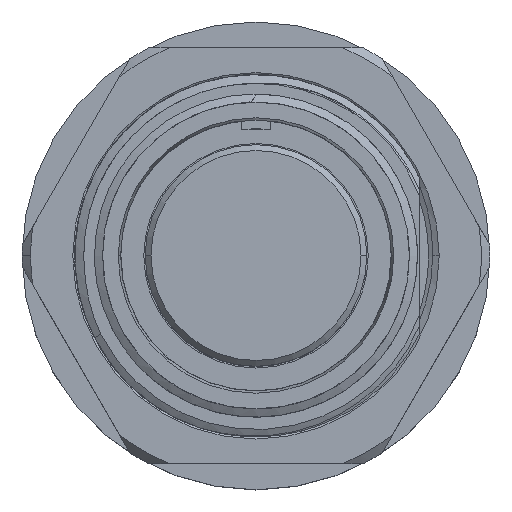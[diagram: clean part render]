
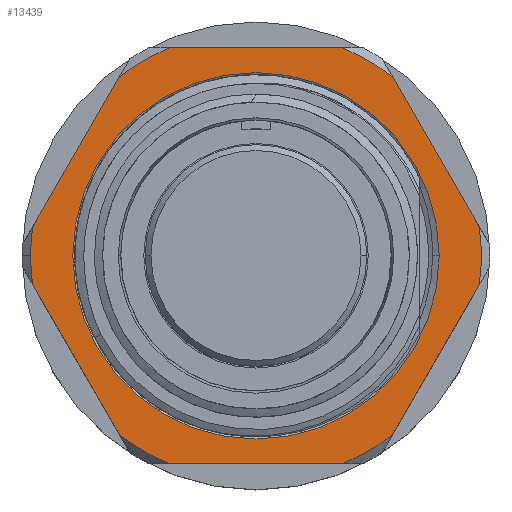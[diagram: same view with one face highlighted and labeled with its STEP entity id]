
A CAD part, top view. The second image highlights one B-rep face of the part: STEP entity #13439.
In plain terms, the highlighted planar face has unit normal (0, 0, 1).
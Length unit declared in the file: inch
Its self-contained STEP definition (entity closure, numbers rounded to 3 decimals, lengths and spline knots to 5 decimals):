
#28 = CIRCLE ( 'NONE', #8294, 0.6325 ) ;
#33 = CARTESIAN_POINT ( 'NONE',  ( 0., 0., -0.59 ) ) ;
#38 = DIRECTION ( 'NONE',  ( 0., 0., 1. ) ) ;
#77 = EDGE_CURVE ( 'NONE', #11012, #11980, #9096, .T. ) ;
#154 = DIRECTION ( 'NONE',  ( 1., 0., 0. ) ) ;
#192 = DIRECTION ( 'NONE',  ( 1., 0., 0. ) ) ;
#251 = CIRCLE ( 'NONE', #6448, 0.7775 ) ;
#433 = EDGE_CURVE ( 'NONE', #2162, #5060, #11085, .T. ) ;
#572 = AXIS2_PLACEMENT_3D ( 'NONE', #33, #11218, #10032 ) ;
#1038 = AXIS2_PLACEMENT_3D ( 'NONE', #14321, #4592, #9145 ) ;
#1225 = CIRCLE ( 'NONE', #9474, 0.7775 ) ;
#1275 = ORIENTED_EDGE ( 'NONE', *, *, #8501, .F. ) ;
#1279 = DIRECTION ( 'NONE',  ( 0., 0., 1. ) ) ;
#1306 = CARTESIAN_POINT ( 'NONE',  ( 0.34749, 0.83313, -0.59 ) ) ;
#1314 = AXIS2_PLACEMENT_3D ( 'NONE', #9435, #6142, #10623 ) ;
#1321 = FACE_OUTER_BOUND ( 'NONE', #11796, .T. ) ;
#1431 = VERTEX_POINT ( 'NONE', #12770 ) ;
#1563 = DIRECTION ( 'NONE',  ( 1., 0., 0. ) ) ;
#1741 = VERTEX_POINT ( 'NONE', #5183 ) ;
#1977 = CARTESIAN_POINT ( 'NONE',  ( 0.6325, 0., -0.59 ) ) ;
#2126 = VERTEX_POINT ( 'NONE', #11651 ) ;
#2162 = VERTEX_POINT ( 'NONE', #12898 ) ;
#2237 = ORIENTED_EDGE ( 'NONE', *, *, #6822, .F. ) ;
#2301 = DIRECTION ( 'NONE',  ( -0.5, 0.866, 0. ) ) ;
#2486 = VECTOR ( 'NONE', #11444, 39.37008 ) ;
#2492 = CARTESIAN_POINT ( 'NONE',  ( 0.47162, -0.61812, -0.59 ) ) ;
#2680 = DIRECTION ( 'NONE',  ( 0., 0., 1. ) ) ;
#2807 = VERTEX_POINT ( 'NONE', #1977 ) ;
#3021 = CARTESIAN_POINT ( 'NONE',  ( 0., 0.7175, -0.59 ) ) ;
#3047 = EDGE_LOOP ( 'NONE', ( #10582, #6995 ) ) ;
#3162 = CARTESIAN_POINT ( 'NONE',  ( 0., 0., -0.59 ) ) ;
#3172 = VECTOR ( 'NONE', #13213, 39.37008 ) ;
#3323 = CARTESIAN_POINT ( 'NONE',  ( -0.34749, 0.83313, -0.59 ) ) ;
#3366 = VERTEX_POINT ( 'NONE', #4807 ) ;
#3498 = CARTESIAN_POINT ( 'NONE',  ( -0.89525, 0.11562, -0.59 ) ) ;
#3609 = VERTEX_POINT ( 'NONE', #7632 ) ;
#3633 = CARTESIAN_POINT ( 'NONE',  ( 0.77112, -0.09938, -0.59 ) ) ;
#3838 = FACE_BOUND ( 'NONE', #3047, .T. ) ;
#4170 = CIRCLE ( 'NONE', #12883, 0.6325 ) ;
#4351 = ORIENTED_EDGE ( 'NONE', *, *, #77, .F. ) ;
#4592 = DIRECTION ( 'NONE',  ( 0., 0., 1. ) ) ;
#4727 = VERTEX_POINT ( 'NONE', #8474 ) ;
#4741 = AXIS2_PLACEMENT_3D ( 'NONE', #6740, #38, #7030 ) ;
#4781 = DIRECTION ( 'NONE',  ( 1., 0., 0. ) ) ;
#4786 = CIRCLE ( 'NONE', #9010, 0.7775 ) ;
#4807 = CARTESIAN_POINT ( 'NONE',  ( -0.2995, 0.7175, -0.59 ) ) ;
#4854 = DIRECTION ( 'NONE',  ( 1., 0., 0. ) ) ;
#4958 = PLANE ( 'NONE',  #1314 ) ;
#5025 = CIRCLE ( 'NONE', #5966, 0.7775 ) ;
#5060 = VERTEX_POINT ( 'NONE', #2492 ) ;
#5122 = ORIENTED_EDGE ( 'NONE', *, *, #5738, .T. ) ;
#5183 = CARTESIAN_POINT ( 'NONE',  ( -0.47162, 0.61812, -0.59 ) ) ;
#5335 = CIRCLE ( 'NONE', #1038, 0.7775 ) ;
#5341 = LINE ( 'NONE', #8782, #13316 ) ;
#5529 = CARTESIAN_POINT ( 'NONE',  ( 0.89525, 0.11562, -0.59 ) ) ;
#5736 = EDGE_CURVE ( 'NONE', #11154, #11980, #4786, .T. ) ;
#5738 = EDGE_CURVE ( 'NONE', #11485, #7323, #1225, .T. ) ;
#5920 = EDGE_CURVE ( 'NONE', #2126, #10541, #5025, .T. ) ;
#5966 = AXIS2_PLACEMENT_3D ( 'NONE', #14622, #14551, #192 ) ;
#6142 = DIRECTION ( 'NONE',  ( 0., 0., -1. ) ) ;
#6417 = ORIENTED_EDGE ( 'NONE', *, *, #5736, .T. ) ;
#6442 = LINE ( 'NONE', #3021, #10664 ) ;
#6444 = CARTESIAN_POINT ( 'NONE',  ( -0.77112, -0.09938, -0.59 ) ) ;
#6448 = AXIS2_PLACEMENT_3D ( 'NONE', #9399, #2680, #4854 ) ;
#6520 = EDGE_CURVE ( 'NONE', #11485, #5060, #12457, .T. ) ;
#6633 = EDGE_CURVE ( 'NONE', #3366, #1741, #251, .T. ) ;
#6638 = DIRECTION ( 'NONE',  ( -0.5, -0.866, 0. ) ) ;
#6695 = EDGE_CURVE ( 'NONE', #2807, #4727, #28, .T. ) ;
#6740 = CARTESIAN_POINT ( 'NONE',  ( 0., 0., -0.59 ) ) ;
#6819 = LINE ( 'NONE', #3323, #3172 ) ;
#6822 = EDGE_CURVE ( 'NONE', #3366, #10541, #6442, .T. ) ;
#6868 = VECTOR ( 'NONE', #2301, 39.37008 ) ;
#6995 = ORIENTED_EDGE ( 'NONE', *, *, #14084, .F. ) ;
#7030 = DIRECTION ( 'NONE',  ( 1., 0., 0. ) ) ;
#7323 = VERTEX_POINT ( 'NONE', #11725 ) ;
#7462 = DIRECTION ( 'NONE',  ( 1., 0., 0. ) ) ;
#7532 = DIRECTION ( 'NONE',  ( 1., 0., 0. ) ) ;
#7632 = CARTESIAN_POINT ( 'NONE',  ( -0.77112, 0.09938, -0.59 ) ) ;
#7868 = ORIENTED_EDGE ( 'NONE', *, *, #9701, .T. ) ;
#8221 = CARTESIAN_POINT ( 'NONE',  ( 0., 0., -0.59 ) ) ;
#8294 = AXIS2_PLACEMENT_3D ( 'NONE', #8221, #11632, #1563 ) ;
#8474 = CARTESIAN_POINT ( 'NONE',  ( -0.6325, 0., -0.59 ) ) ;
#8501 = EDGE_CURVE ( 'NONE', #3609, #1741, #6819, .T. ) ;
#8782 = CARTESIAN_POINT ( 'NONE',  ( 0., -0.7175, -0.59 ) ) ;
#8857 = ORIENTED_EDGE ( 'NONE', *, *, #12281, .T. ) ;
#9010 = AXIS2_PLACEMENT_3D ( 'NONE', #11268, #11418, #4781 ) ;
#9096 = LINE ( 'NONE', #3498, #6868 ) ;
#9145 = DIRECTION ( 'NONE',  ( 1., 0., 0. ) ) ;
#9399 = CARTESIAN_POINT ( 'NONE',  ( 0., 0., -0.59 ) ) ;
#9435 = CARTESIAN_POINT ( 'NONE',  ( 0., 0.6325, -0.59 ) ) ;
#9474 = AXIS2_PLACEMENT_3D ( 'NONE', #3162, #1279, #154 ) ;
#9568 = EDGE_CURVE ( 'NONE', #2162, #1431, #5341, .T. ) ;
#9666 = DIRECTION ( 'NONE',  ( -1., 0., 0. ) ) ;
#9701 = EDGE_CURVE ( 'NONE', #11012, #1431, #5335, .T. ) ;
#9716 = VECTOR ( 'NONE', #6638, 39.37008 ) ;
#9891 = DIRECTION ( 'NONE',  ( 0., 0., 1. ) ) ;
#10032 = DIRECTION ( 'NONE',  ( 1., 0., 0. ) ) ;
#10541 = VERTEX_POINT ( 'NONE', #12227 ) ;
#10561 = ORIENTED_EDGE ( 'NONE', *, *, #6633, .T. ) ;
#10582 = ORIENTED_EDGE ( 'NONE', *, *, #6695, .F. ) ;
#10623 = DIRECTION ( 'NONE',  ( -1., 0., 0. ) ) ;
#10664 = VECTOR ( 'NONE', #7532, 39.37008 ) ;
#10780 = CARTESIAN_POINT ( 'NONE',  ( 0., 0., -0.59 ) ) ;
#10885 = ORIENTED_EDGE ( 'NONE', *, *, #433, .T. ) ;
#11012 = VERTEX_POINT ( 'NONE', #11028 ) ;
#11028 = CARTESIAN_POINT ( 'NONE',  ( -0.47162, -0.61812, -0.59 ) ) ;
#11061 = CARTESIAN_POINT ( 'NONE',  ( -0.7775, 0., -0.59 ) ) ;
#11085 = CIRCLE ( 'NONE', #4741, 0.7775 ) ;
#11154 = VERTEX_POINT ( 'NONE', #11061 ) ;
#11186 = ORIENTED_EDGE ( 'NONE', *, *, #9568, .F. ) ;
#11218 = DIRECTION ( 'NONE',  ( 0., 0., 1. ) ) ;
#11268 = CARTESIAN_POINT ( 'NONE',  ( 0., 0., -0.59 ) ) ;
#11324 = ORIENTED_EDGE ( 'NONE', *, *, #5920, .T. ) ;
#11411 = ORIENTED_EDGE ( 'NONE', *, *, #6520, .F. ) ;
#11418 = DIRECTION ( 'NONE',  ( 0., 0., 1. ) ) ;
#11444 = DIRECTION ( 'NONE',  ( 0.5, -0.866, 0. ) ) ;
#11467 = CIRCLE ( 'NONE', #572, 0.7775 ) ;
#11485 = VERTEX_POINT ( 'NONE', #3633 ) ;
#11632 = DIRECTION ( 'NONE',  ( 0., 0., 1. ) ) ;
#11651 = CARTESIAN_POINT ( 'NONE',  ( 0.47162, 0.61812, -0.59 ) ) ;
#11725 = CARTESIAN_POINT ( 'NONE',  ( 0.77112, 0.09938, -0.59 ) ) ;
#11796 = EDGE_LOOP ( 'NONE', ( #11411, #5122, #13882, #11324, #2237, #10561, #1275, #8857, #6417, #4351, #7868, #11186, #10885 ) ) ;
#11980 = VERTEX_POINT ( 'NONE', #6444 ) ;
#12227 = CARTESIAN_POINT ( 'NONE',  ( 0.2995, 0.7175, -0.59 ) ) ;
#12281 = EDGE_CURVE ( 'NONE', #3609, #11154, #11467, .T. ) ;
#12299 = EDGE_CURVE ( 'NONE', #2126, #7323, #13578, .T. ) ;
#12457 = LINE ( 'NONE', #5529, #9716 ) ;
#12770 = CARTESIAN_POINT ( 'NONE',  ( -0.2995, -0.7175, -0.59 ) ) ;
#12883 = AXIS2_PLACEMENT_3D ( 'NONE', #10780, #9891, #7462 ) ;
#12898 = CARTESIAN_POINT ( 'NONE',  ( 0.2995, -0.7175, -0.59 ) ) ;
#13213 = DIRECTION ( 'NONE',  ( 0.5, 0.866, 0. ) ) ;
#13316 = VECTOR ( 'NONE', #9666, 39.37008 ) ;
#13439 = ADVANCED_FACE ( 'NONE', ( #3838, #1321 ), #4958, .F. ) ;
#13578 = LINE ( 'NONE', #1306, #2486 ) ;
#13882 = ORIENTED_EDGE ( 'NONE', *, *, #12299, .F. ) ;
#14084 = EDGE_CURVE ( 'NONE', #4727, #2807, #4170, .T. ) ;
#14321 = CARTESIAN_POINT ( 'NONE',  ( 0., 0., -0.59 ) ) ;
#14551 = DIRECTION ( 'NONE',  ( 0., 0., 1. ) ) ;
#14622 = CARTESIAN_POINT ( 'NONE',  ( 0., 0., -0.59 ) ) ;
